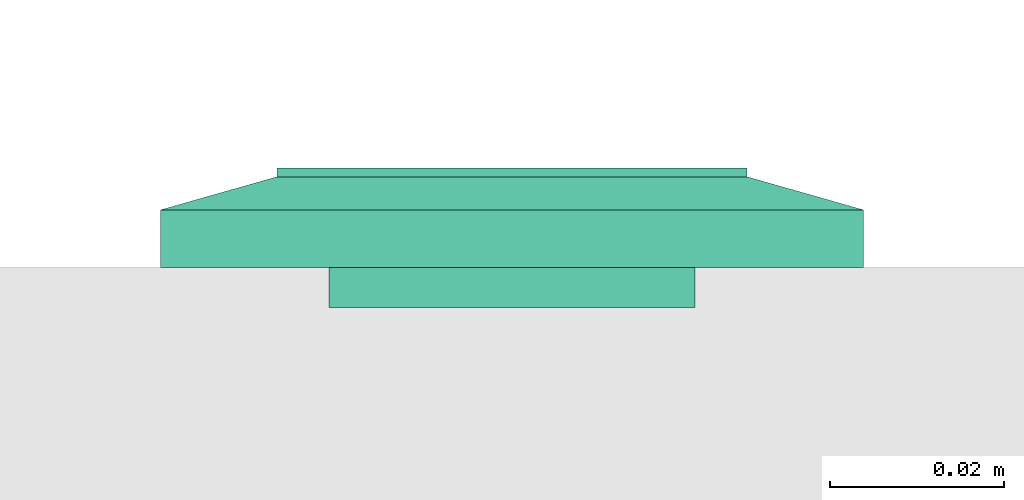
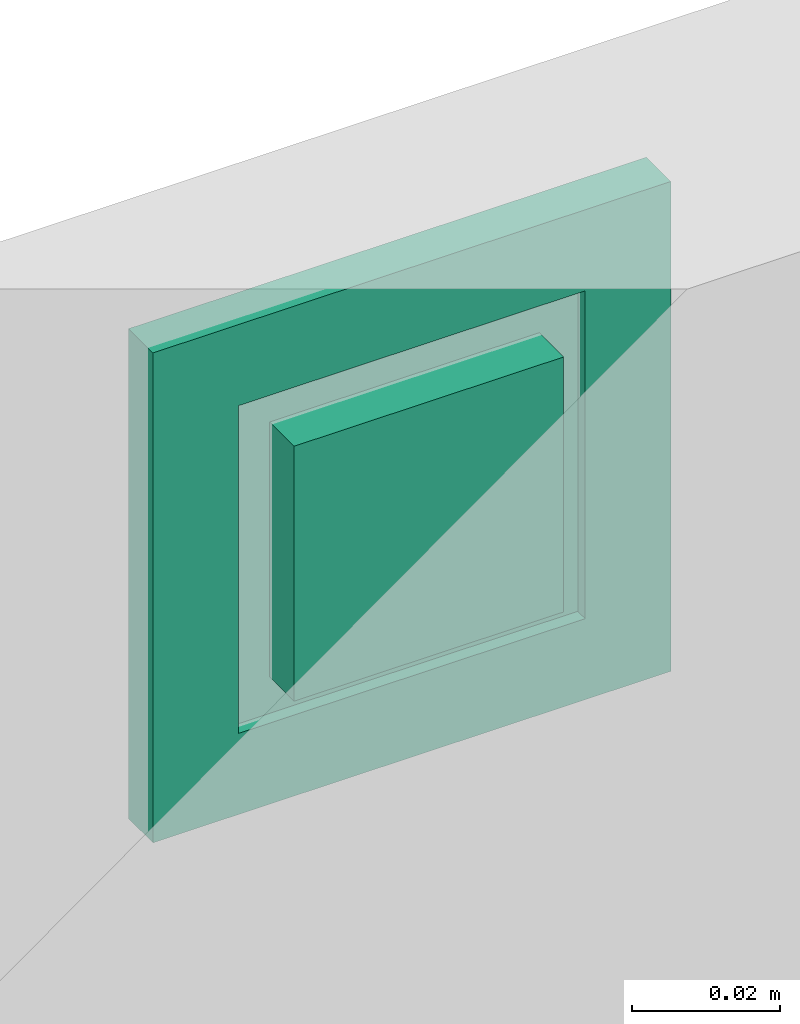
# One storey, part 96 of 153: 1 flow terminal.
"""IFC2X3 building model written with IfcOpenShell, lengths in metres."""

from ifc_helpers import new_model, entity, si_unit, converted_unit, derived_unit, direction, frame, origin, place, context, subcontext, project, spatial, faceted_brep, source, transform, mapped, type_object, type_shapes, element, save


model = new_model("IFC2X3")

# Units and contexts
model_context = context("Model", 3, precision=1e-05, world=origin(), true_north=direction((6.12303176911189e-17, 1.0)))
body_context = subcontext(model_context, "Body", "Model", "MODEL_VIEW")
ifc_project = project(units=[si_unit("LENGTHUNIT", "METRE"), si_unit("AREAUNIT", "SQUARE_METRE"), si_unit("VOLUMEUNIT", "CUBIC_METRE"), converted_unit("PLANEANGLEUNIT", "DEGREE", entity("IfcRatioMeasure", 0.0174532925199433), si_unit("PLANEANGLEUNIT", "RADIAN"), dimensions=[0, 0, 0, 0, 0, 0, 0]), si_unit("MASSUNIT", "GRAM", prefix="KILO"), derived_unit("MASSDENSITYUNIT", [(si_unit("MASSUNIT", "GRAM", prefix="KILO"), 1), (si_unit("LENGTHUNIT", "METRE"), -3)]), si_unit("TIMEUNIT", "SECOND"), si_unit("FREQUENCYUNIT", "HERTZ"), si_unit("THERMODYNAMICTEMPERATUREUNIT", "DEGREE_CELSIUS"), derived_unit("THERMALTRANSMITTANCEUNIT", [(si_unit("MASSUNIT", "GRAM", prefix="KILO"), 1), (si_unit("THERMODYNAMICTEMPERATUREUNIT", "KELVIN"), -1), (si_unit("TIMEUNIT", "SECOND"), -3)]), derived_unit("VOLUMETRICFLOWRATEUNIT", [(si_unit("LENGTHUNIT", "METRE"), 3), (si_unit("TIMEUNIT", "SECOND"), -1)]), si_unit("ELECTRICCURRENTUNIT", "AMPERE"), si_unit("ELECTRICVOLTAGEUNIT", "VOLT"), si_unit("POWERUNIT", "WATT"), si_unit("FORCEUNIT", "NEWTON"), si_unit("ILLUMINANCEUNIT", "LUX"), si_unit("LUMINOUSFLUXUNIT", "LUMEN"), si_unit("LUMINOUSINTENSITYUNIT", "CANDELA"), derived_unit("USERDEFINED", [(si_unit("MASSUNIT", "GRAM", prefix="KILO"), -1), (si_unit("LENGTHUNIT", "METRE"), -2), (si_unit("TIMEUNIT", "SECOND"), 3), (si_unit("LUMINOUSFLUXUNIT", "LUMEN"), 1)]), derived_unit("LINEARVELOCITYUNIT", [(si_unit("LENGTHUNIT", "METRE"), 1), (si_unit("TIMEUNIT", "SECOND"), -1)]), si_unit("PRESSUREUNIT", "PASCAL"), derived_unit("USERDEFINED", [(si_unit("LENGTHUNIT", "METRE"), -2), (si_unit("MASSUNIT", "GRAM", prefix="KILO"), 1), (si_unit("TIMEUNIT", "SECOND"), -2)])], contexts=[model_context])

# Site, building, storey
site_placement = place(None, origin())
site = spatial("IfcSite", under=ifc_project, at=site_placement, Name="Default", CompositionType="ELEMENT")
building_placement = place(site_placement, origin())
building = spatial("IfcBuilding", under=site, at=building_placement, CompositionType="ELEMENT")
storey_placement = place(building_placement, frame((0.0, 0.0, -4.62)))
storey = spatial("IfcBuildingStorey", under=building, at=storey_placement, Name="S02", CompositionType="ELEMENT", Elevation=-4.62)

# Flow terminal
electric_appliance_type = type_object("IfcElectricApplianceType", Name="RJ45 IP20", PredefinedType="NOTDEFINED")
shared_shape = source(origin(), body_context, "Body", "Brep", [
    faceted_brep([(0.00200000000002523, 0.0, 0.00799999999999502), (0.00400000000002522, 0.0, 0.00799999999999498), (0.00500000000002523, 0.00199999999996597, 0.00799999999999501), (0.0110000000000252, 0.00199999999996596, 0.00799999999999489), (0.0120000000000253, 0.0, 0.00799999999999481), (0.0140000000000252, 0.0, 0.00799999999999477), (0.0140000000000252, 0.00399999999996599, 0.00799999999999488), (0.00200000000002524, 0.00399999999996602, 0.00799999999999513), (0.00200000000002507, 0.0, 0.0), (0.00200000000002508, 0.00399999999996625, 0.0), (0.0140000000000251, 0.00399999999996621, 0.0), (0.0140000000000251, 0.0, 0.0), (0.0120000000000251, 0.0, 0.0), (0.0110000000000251, 0.00199999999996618, 0.0), (0.00500000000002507, 0.0019999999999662, 0.0), (0.00400000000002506, 0.0, 0.0)], [[[0, 1, 2, 3, 4, 5, 6, 7]], [[8, 9, 10, 11, 12, 13, 14, 15]], [[1, 0, 8, 15]], [[2, 1, 15, 14]], [[3, 2, 14, 13]], [[4, 3, 13, 12]], [[5, 4, 12, 11]], [[6, 5, 11, 10]], [[7, 6, 10, 9]], [[0, 7, 9, 8]]]),
    faceted_brep([(-0.0139999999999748, 0.0, 0.00799999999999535), (-0.0119999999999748, 0.0, 0.00799999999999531), (-0.0109999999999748, 0.00199999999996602, 0.00799999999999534), (-0.00499999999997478, 0.00199999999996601, 0.00799999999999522), (-0.0039999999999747, 0.0, 0.00799999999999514), (-0.00199999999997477, 0.0, 0.0079999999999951), (-0.00199999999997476, 0.00399999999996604, 0.00799999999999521), (-0.0139999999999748, 0.00399999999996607, 0.00799999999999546), (-0.0139999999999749, 0.0, 0.0), (-0.0139999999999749, 0.00399999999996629, 0.0), (-0.00199999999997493, 0.00399999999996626, 0.0), (-0.00199999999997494, 0.0, 0.0), (-0.00399999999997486, 0.0, 0.0), (-0.00499999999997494, 0.00199999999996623, 0.0), (-0.0109999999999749, 0.00199999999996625, 0.0), (-0.0119999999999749, 0.0, 0.0)], [[[0, 1, 2, 3, 4, 5, 6, 7]], [[8, 9, 10, 11, 12, 13, 14, 15]], [[1, 0, 8, 15]], [[2, 1, 15, 14]], [[3, 2, 14, 13]], [[4, 3, 13, 12]], [[5, 4, 12, 11]], [[6, 5, 11, 10]], [[7, 6, 10, 9]], [[0, 7, 9, 8]]]),
    faceted_brep([(0.0140000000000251, 0.00399999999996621, 0.0), (0.00200000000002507, 0.00399999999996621, 0.0), (0.00200000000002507, -0.00350000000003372, 0.0), (0.0140000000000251, -0.00350000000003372, 0.0), (0.0140000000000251, 0.00399999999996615, 0.00199999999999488), (0.00200000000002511, 0.00399999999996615, 0.00199999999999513), (0.00200000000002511, -0.00393859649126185, 0.00199999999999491), (0.0140000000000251, -0.00393859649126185, 0.00199999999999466), (0.0210000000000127, 0.0209999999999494, 0.00199999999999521), (-0.0209999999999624, 0.0209999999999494, 0.00199999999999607), (-0.0209999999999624, -0.0210000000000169, 0.00199999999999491), (0.0210000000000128, -0.0210000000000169, 0.00199999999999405), (-0.0139999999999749, 0.0039999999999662, 0.00199999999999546), (-0.0019999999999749, 0.0039999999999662, 0.00199999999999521), (-0.00199999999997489, -0.0039385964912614, 0.00199999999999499), (-0.0139999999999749, -0.00393859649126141, 0.00199999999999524), (0.0210000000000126, 0.0209999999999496, -0.00460000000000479), (0.0210000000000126, -0.0210000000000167, -0.00460000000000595), (-0.0209999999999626, -0.0210000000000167, -0.00460000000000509), (-0.0209999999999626, 0.0209999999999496, -0.00460000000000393), (-0.00199999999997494, 0.00399999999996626, 0.0), (-0.0139999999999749, 0.00399999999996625, 0.0), (-0.0139999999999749, -0.00350000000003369, 0.0), (-0.00199999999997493, -0.00350000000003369, 0.0)], [[[0, 1, 2, 3]], [[1, 0, 4, 5]], [[2, 1, 5, 6]], [[3, 2, 6, 7]], [[0, 3, 7, 4]], [[5, 4, 7, 6], [8, 9, 10, 11], [12, 13, 14, 15]], [[16, 17, 18, 19]], [[9, 8, 16, 19]], [[10, 9, 19, 18]], [[11, 10, 18, 17]], [[8, 11, 17, 16]], [[20, 21, 22, 23]], [[21, 20, 13, 12]], [[22, 21, 12, 15]], [[23, 22, 15, 14]], [[20, 23, 14, 13]]], outer=[[True], [True], [True], [True], [True], [False, True, False], [True], [True], [True], [True], [True], [True], [True], [True], [True], [True]]),
    faceted_brep([(0.0270000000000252, 0.026999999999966, 0.0113999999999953), (-0.0269999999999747, 0.026999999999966, 0.0113999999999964), (-0.0269999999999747, -0.0270000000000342, 0.0113999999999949), (0.0270000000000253, -0.0270000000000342, 0.0113999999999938), (0.0020000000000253, 0.00399999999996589, 0.0113999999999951), (0.0140000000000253, 0.00399999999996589, 0.0113999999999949), (0.0140000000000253, -0.00600000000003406, 0.0113999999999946), (0.0020000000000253, -0.00600000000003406, 0.0113999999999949), (-0.0139999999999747, 0.00399999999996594, 0.0113999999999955), (-0.00199999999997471, 0.00399999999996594, 0.0113999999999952), (-0.00199999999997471, -0.0060000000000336, 0.0113999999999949), (-0.0139999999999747, -0.00600000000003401, 0.0113999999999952), (0.0270000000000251, 0.0269999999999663, 0.00199999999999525), (0.0270000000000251, -0.0270000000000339, 0.00199999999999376), (-0.0269999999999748, -0.0270000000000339, 0.00199999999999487), (-0.0269999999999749, 0.0269999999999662, 0.00199999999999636), (0.0140000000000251, 0.00399999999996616, 0.00199999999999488), (0.00200000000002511, 0.00399999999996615, 0.00199999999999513), (0.00200000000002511, -0.00393859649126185, 0.00199999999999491), (0.0140000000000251, -0.00393859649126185, 0.00199999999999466), (-0.00199999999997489, 0.0039999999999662, 0.00199999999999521), (-0.0139999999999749, 0.0039999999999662, 0.00199999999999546), (-0.0139999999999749, -0.0039385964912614, 0.00199999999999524), (-0.00199999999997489, -0.0039385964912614, 0.00199999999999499)], [[[0, 1, 2, 3], [4, 5, 6, 7], [8, 9, 10, 11]], [[12, 13, 14, 15], [16, 17, 18, 19], [20, 21, 22, 23]], [[1, 0, 12, 15]], [[2, 1, 15, 14]], [[3, 2, 14, 13]], [[0, 3, 13, 12]], [[4, 17, 16, 5]], [[17, 4, 7, 18]], [[18, 7, 6, 19]], [[5, 16, 19, 6]], [[8, 21, 20, 9]], [[21, 8, 11, 22]], [[22, 11, 10, 23]], [[9, 20, 23, 10]]]),
    faceted_brep([(0.027000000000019, 0.0269999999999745, 0.00659999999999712), (-0.0269999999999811, 0.0269999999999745, 0.00659999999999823), (-0.026999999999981, -0.0270000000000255, 0.00659999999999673), (0.027000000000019, -0.0270000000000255, 0.00659999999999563), (0.040350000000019, 0.0403499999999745, 0.00659999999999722), (0.040350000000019, -0.0403500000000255, 0.00659999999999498), (-0.0403499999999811, -0.0403500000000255, 0.00659999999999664), (-0.0403499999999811, 0.0403499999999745, 0.00659999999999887), (-0.026999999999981, 0.0269999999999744, 0.0103999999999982), (0.027000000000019, 0.0269999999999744, 0.0103999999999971), (-0.026999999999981, -0.0270000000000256, 0.0103999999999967), (0.027000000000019, -0.0270000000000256, 0.0103999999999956)], [[[0, 1, 2, 3], [4, 5, 6, 7]], [[4, 7, 8, 9]], [[7, 6, 10, 8]], [[6, 5, 11, 10]], [[5, 4, 9, 11]], [[0, 9, 8, 1]], [[1, 8, 10, 2]], [[2, 10, 11, 3]], [[9, 0, 3, 11]]], outer=[[False, True], [True], [True], [True], [True], [True], [True], [True], [True]]),
    faceted_brep([(0.040350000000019, 0.0403499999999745, 0.00659999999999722), (-0.0403499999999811, 0.0403499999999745, 0.00659999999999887), (-0.0403499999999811, -0.0403500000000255, 0.00659999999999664), (0.040350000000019, -0.0403500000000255, 0.00659999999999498), (-0.0269999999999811, 0.0269999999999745, 0.00659999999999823), (0.0270000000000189, 0.0269999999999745, 0.00659999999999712), (0.0270000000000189, -0.0270000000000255, 0.00659999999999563), (-0.0269999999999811, -0.0270000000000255, 0.00659999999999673), (0.0403500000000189, 0.0403499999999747, 0.0), (0.0403500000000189, -0.0403500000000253, 0.0), (-0.0403499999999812, -0.0403500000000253, 0.0), (-0.0403499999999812, 0.0403499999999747, 0.0), (0.0270000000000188, 0.0269999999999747, 0.0), (-0.0269999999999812, 0.0269999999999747, 0.0), (-0.0269999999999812, -0.0270000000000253, 0.0), (0.0270000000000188, -0.0270000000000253, 0.0)], [[[0, 1, 2, 3], [4, 5, 6, 7]], [[8, 9, 10, 11], [12, 13, 14, 15]], [[1, 0, 8, 11]], [[2, 1, 11, 10]], [[3, 2, 10, 9]], [[0, 3, 9, 8]], [[12, 5, 4, 13]], [[13, 4, 7, 14]], [[14, 7, 6, 15]], [[5, 12, 15, 6]]]),
])
type_shapes(electric_appliance_type, [shared_shape])
flow_terminal_placement = place(building_placement, frame((56.3523946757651, -189.113069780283, -4.18699999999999), z_axis=(0.0, 1.0, 0.0), x_axis=(-1.0, 0.0, 0.0)))
element("IfcFlowTerminal", 1, at=flow_terminal_placement, inside=storey, type_object=electric_appliance_type, Name="INT_Prise RJ45:RJ45 IP20", ObjectType="INT_Prise RJ45:RJ45 IP20", context=body_context, shape_type="MappedRepresentation", body=[
    mapped(shared_shape, transform((0.0, 0.0, 0.0), scale=1.0)),
])

save(model, "model.ifc")
